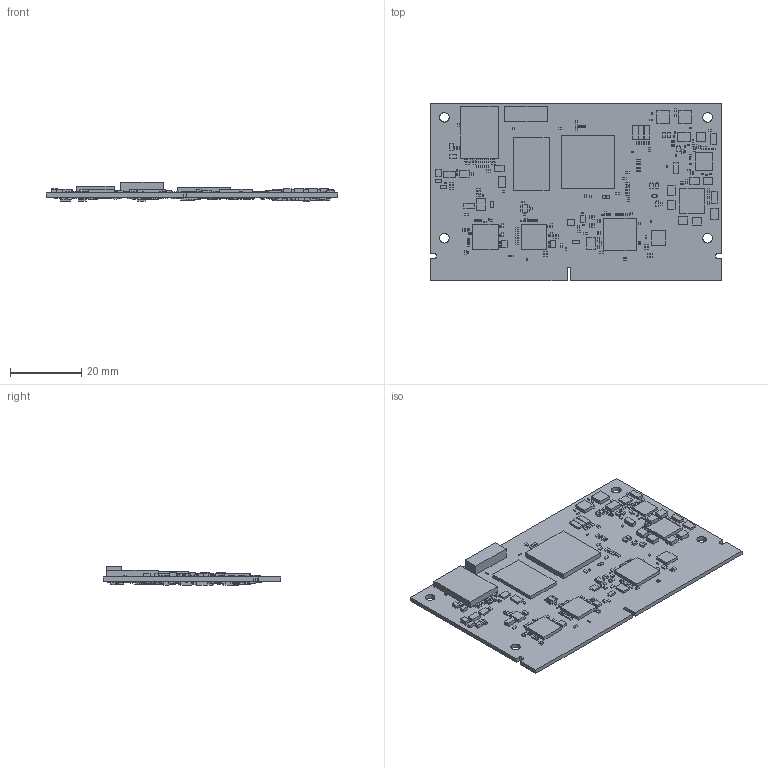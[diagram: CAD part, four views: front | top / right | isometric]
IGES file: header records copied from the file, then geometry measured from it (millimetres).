
Global section: file name: SMARC-8MP-V1; native system: unknown; preprocessor: unknown; author: unknown; organization: unknown; date: 20260827.011915; units: millimetre
Bounding box: 82 x 50 x 5.35 mm (x, y, z)
Volume: 6571.2 mm3; surface area: 13259.3 mm2
Topology: 644 solids, 644 shells, 4043 faces, 8269 edges, 5514 vertices
Faces by surface type: bspline 4043
